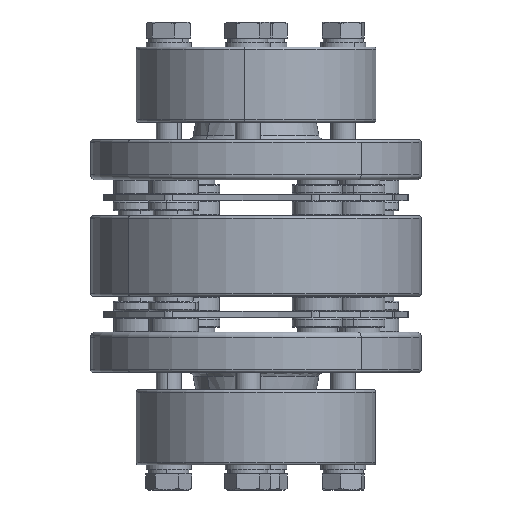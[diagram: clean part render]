
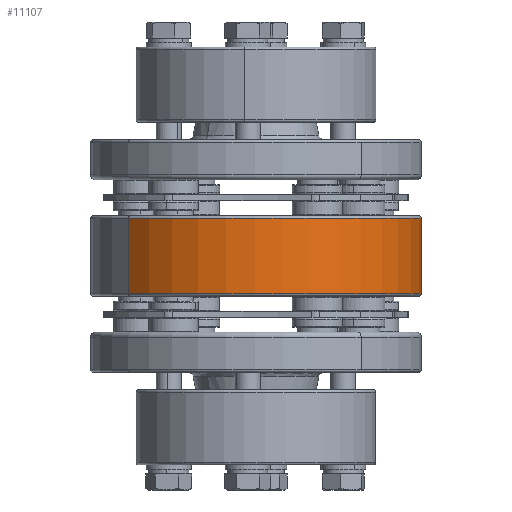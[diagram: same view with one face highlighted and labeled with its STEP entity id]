
A CAD part, front view. The second image highlights one B-rep face of the part: STEP entity #11107.
In plain terms, the highlighted cylindrical face has radius 33 mm (diameter 66 mm), a partial arc.
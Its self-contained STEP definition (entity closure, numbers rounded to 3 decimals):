
#5435 = CARTESIAN_POINT ( 'NONE',  ( 33., 0., 15.5 ) ) ;
#6105 = LINE ( 'NONE', #6162, #6161 ) ;
#6107 = CARTESIAN_POINT ( 'NONE',  ( -33., 0., 0.5 ) ) ;
#6113 = CARTESIAN_POINT ( 'NONE',  ( 33., 0., 0.5 ) ) ;
#6114 = DIRECTION ( 'NONE',  ( 0., 0., -1. ) ) ;
#6115 = VECTOR ( 'NONE', #6114, 1000. ) ;
#6116 = CARTESIAN_POINT ( 'NONE',  ( 33., 0., 15.5 ) ) ;
#6117 = LINE ( 'NONE', #6116, #6115 ) ;
#6160 = DIRECTION ( 'NONE',  ( 0., 0., -1. ) ) ;
#6161 = VECTOR ( 'NONE', #6160, 1000. ) ;
#6162 = CARTESIAN_POINT ( 'NONE',  ( -33., 0., 15.5 ) ) ;
#10189 = VERTEX_POINT ( 'NONE', #5435 ) ;
#10234 = EDGE_CURVE ( 'NONE', #10189, #10235, #6117, .T. ) ;
#10235 = VERTEX_POINT ( 'NONE', #6113 ) ;
#10238 = VERTEX_POINT ( 'NONE', #6107 ) ;
#10240 = EDGE_CURVE ( 'NONE', #10397, #10238, #6105, .T. ) ;
#10397 = VERTEX_POINT ( 'NONE', #10849 ) ;
#10750 = ORIENTED_EDGE ( 'NONE', *, *, #10751, .F. ) ;
#10751 = EDGE_CURVE ( 'NONE', #10397, #10189, #13687, .T. ) ;
#10752 = ORIENTED_EDGE ( 'NONE', *, *, #10240, .T. ) ;
#10753 = ORIENTED_EDGE ( 'NONE', *, *, #10981, .F. ) ;
#10849 = CARTESIAN_POINT ( 'NONE',  ( -33., 0., 15.5 ) ) ;
#10981 = EDGE_CURVE ( 'NONE', #10235, #10238, #14833, .T. ) ;
#11101 = ORIENTED_EDGE ( 'NONE', *, *, #10234, .F. ) ;
#11107 = ADVANCED_FACE ( 'NONE', ( #15150 ), #15208, .T. ) ;
#11109 = EDGE_LOOP ( 'NONE', ( #11101, #10750, #10752, #10753 ) ) ;
#13687 = CIRCLE ( 'NONE', #13793, 33. ) ;
#13790 = DIRECTION ( 'NONE',  ( 1., 0., 0. ) ) ;
#13791 = DIRECTION ( 'NONE',  ( 0., 0., 1. ) ) ;
#13792 = CARTESIAN_POINT ( 'NONE',  ( 0., 0., 15.5 ) ) ;
#13793 = AXIS2_PLACEMENT_3D ( 'NONE', #13792, #13791, #13790 ) ;
#14826 = DIRECTION ( 'NONE',  ( -1., 0., 0. ) ) ;
#14828 = DIRECTION ( 'NONE',  ( 0., 0., -1. ) ) ;
#14829 = CARTESIAN_POINT ( 'NONE',  ( 0., 0., 0.5 ) ) ;
#14830 = AXIS2_PLACEMENT_3D ( 'NONE', #14829, #14828, #14826 ) ;
#14833 = CIRCLE ( 'NONE', #14830, 33. ) ;
#15150 = FACE_OUTER_BOUND ( 'NONE', #11109, .T. ) ;
#15203 = DIRECTION ( 'NONE',  ( -1., 0., 0. ) ) ;
#15205 = DIRECTION ( 'NONE',  ( 0., 0., -1. ) ) ;
#15206 = AXIS2_PLACEMENT_3D ( 'NONE', #15216, #15205, #15203 ) ;
#15208 = CYLINDRICAL_SURFACE ( 'NONE', #15206, 33. ) ;
#15216 = CARTESIAN_POINT ( 'NONE',  ( 0., 0., 15.5 ) ) ;
